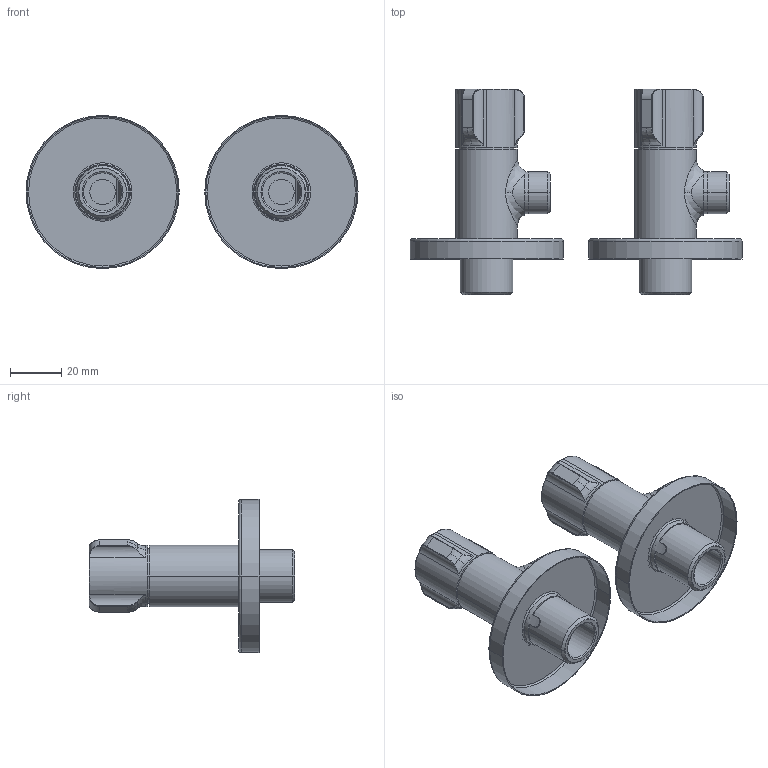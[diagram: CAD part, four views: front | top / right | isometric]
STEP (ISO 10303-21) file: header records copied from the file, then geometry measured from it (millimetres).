
FILE_DESCRIPTION((''),'2;1');
FILE_NAME('48742--00_ASM','2025-03-03T15:12:13',('clra1'),(''),'CREO PARAMETRIC BY PTC INC, 2022244','CREO PARAMETRIC BY PTC INC, 2022244','');
FILE_SCHEMA(('CONFIG_CONTROL_DESIGN'));
Length unit declared in the file: millimetre
Products named in the file (6): 46790--; 4679100; 46789--; 46821--; 46822--_ASM; 48742--00_ASM
Assembly tree (6 placements, depth 3):
  48742--00_ASM
    46822--_ASM  x2
      46790--
      4679100
      46789--
      46821--
Bounding box: 130 x 80.5 x 60 mm (x, y, z)
Volume: 41462.7 mm3; surface area: 56450.8 mm2
Topology: 8 solids, 20 shells, 642 faces, 1484 edges, 900 vertices
Faces by surface type: cylinder 196, bspline 160, plane 136, torus 86, cone 60, sphere 4
Entity records: 14919 total; most frequent: CARTESIAN_POINT 7793, DIRECTION 1489, ORIENTED_EDGE 1452, EDGE_CURVE 742, AXIS2_PLACEMENT_3D 656, VERTEX_POINT 450, CIRCLE 393, EDGE_LOOP 352
